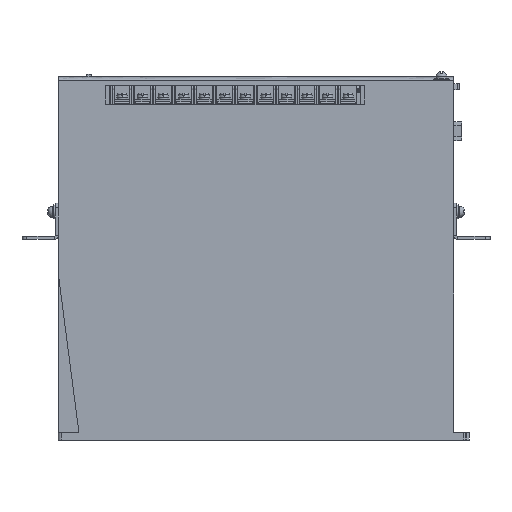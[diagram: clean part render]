
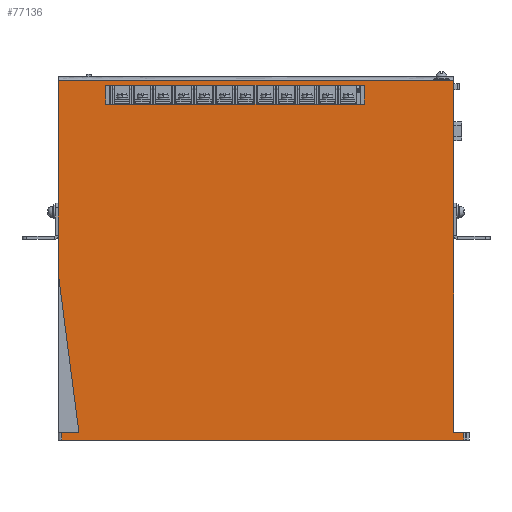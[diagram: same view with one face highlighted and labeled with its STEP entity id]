
A CAD part, left-side view. The second image highlights one B-rep face of the part: STEP entity #77136.
In plain terms, the highlighted planar face has unit normal (-1, 0, 0).
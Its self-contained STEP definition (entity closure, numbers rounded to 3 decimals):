
#69742=DIRECTION('',(0.,0.,-1.));
#69743=VECTOR('',#69742,222.5);
#69744=CARTESIAN_POINT('',(-51.,0.,222.5));
#69745=LINE('',#69744,#69743);
#69746=DIRECTION('',(0.,-1.,0.));
#69747=VECTOR('',#69746,6.5);
#69748=CARTESIAN_POINT('',(-51.,0.,0.));
#69749=LINE('',#69748,#69747);
#69750=DIRECTION('',(0.,1.,0.));
#69751=VECTOR('',#69750,254.5);
#69752=CARTESIAN_POINT('',(-51.,-6.5,-5.));
#69753=LINE('',#69752,#69751);
#69754=DIRECTION('',(0.,-1.,0.));
#69755=VECTOR('',#69754,11.);
#69756=CARTESIAN_POINT('',(-51.,248.,0.));
#69757=LINE('',#69756,#69755);
#69758=DIRECTION('',(0.,0.129,0.992));
#69759=VECTOR('',#69758,100.841);
#69760=CARTESIAN_POINT('',(-51.,237.,0.));
#69761=LINE('',#69760,#69759);
#69762=DIRECTION('',(0.,0.,1.));
#69763=VECTOR('',#69762,122.5);
#69764=CARTESIAN_POINT('',(-51.,250.,100.));
#69765=LINE('',#69764,#69763);
#69766=DIRECTION('',(0.,-1.,0.));
#69767=VECTOR('',#69766,250.);
#69768=CARTESIAN_POINT('',(-51.,250.,222.5));
#69769=LINE('',#69768,#69767);
#70514=DIRECTION('',(0.,0.,1.));
#70515=VECTOR('',#70514,5.);
#70516=CARTESIAN_POINT('',(-51.,-6.5,-5.));
#70517=LINE('',#70516,#70515);
#70594=DIRECTION('',(0.,0.,-1.));
#70595=VECTOR('',#70594,5.);
#70596=CARTESIAN_POINT('',(-51.,248.,0.));
#70597=LINE('',#70596,#70595);
#72050=DIRECTION('',(0.,1.,0.));
#72051=VECTOR('',#72050,163.4);
#72052=CARTESIAN_POINT('',(-51.,56.6,207.5));
#72053=LINE('',#72052,#72051);
#72054=DIRECTION('',(0.,0.,1.));
#72055=VECTOR('',#72054,12.);
#72056=CARTESIAN_POINT('',(-51.,220.,207.5));
#72057=LINE('',#72056,#72055);
#72062=DIRECTION('',(0.,-1.,0.));
#72063=VECTOR('',#72062,163.4);
#72064=CARTESIAN_POINT('',(-51.,220.,219.5));
#72065=LINE('',#72064,#72063);
#72070=DIRECTION('',(0.,0.,-1.));
#72071=VECTOR('',#72070,12.);
#72072=CARTESIAN_POINT('',(-51.,56.6,219.5));
#72073=LINE('',#72072,#72071);
#74072=CARTESIAN_POINT('',(-51.,0.,222.5));
#74073=VERTEX_POINT('',#74072);
#74074=CARTESIAN_POINT('',(-51.,250.,222.5));
#74075=VERTEX_POINT('',#74074);
#74494=CARTESIAN_POINT('',(-51.,250.,100.));
#74495=VERTEX_POINT('',#74494);
#74740=CARTESIAN_POINT('',(-51.,-6.5,0.));
#74741=VERTEX_POINT('',#74740);
#74742=CARTESIAN_POINT('',(-51.,0.,0.));
#74743=VERTEX_POINT('',#74742);
#74776=CARTESIAN_POINT('',(-51.,248.,0.));
#74777=CARTESIAN_POINT('',(-51.,237.,0.));
#74778=VERTEX_POINT('',#74776);
#74779=VERTEX_POINT('',#74777);
#74828=CARTESIAN_POINT('',(-51.,248.,-5.));
#74829=VERTEX_POINT('',#74828);
#74830=CARTESIAN_POINT('',(-51.,-6.5,-5.));
#74831=VERTEX_POINT('',#74830);
#75125=CARTESIAN_POINT('',(-51.,56.6,207.5));
#75126=CARTESIAN_POINT('',(-51.,220.,207.5));
#75127=VERTEX_POINT('',#75125);
#75128=VERTEX_POINT('',#75126);
#75129=CARTESIAN_POINT('',(-51.,56.6,219.5));
#75130=VERTEX_POINT('',#75129);
#75131=CARTESIAN_POINT('',(-51.,220.,219.5));
#75132=VERTEX_POINT('',#75131);
#77105=CARTESIAN_POINT('',(-51.,121.75,108.75));
#77106=DIRECTION('',(1.,0.,0.));
#77107=DIRECTION('',(0.,-1.,0.));
#77108=AXIS2_PLACEMENT_3D('',#77105,#77106,#77107);
#77109=PLANE('',#77108);
#77111=ORIENTED_EDGE('',*,*,#77110,.T.);
#77113=ORIENTED_EDGE('',*,*,#77112,.T.);
#77115=ORIENTED_EDGE('',*,*,#77114,.F.);
#77117=ORIENTED_EDGE('',*,*,#77116,.T.);
#77119=ORIENTED_EDGE('',*,*,#77118,.F.);
#77120=ORIENTED_EDGE('',*,*,#77078,.T.);
#77121=ORIENTED_EDGE('',*,*,#77100,.T.);
#77122=ORIENTED_EDGE('',*,*,#76828,.T.);
#77123=ORIENTED_EDGE('',*,*,#75674,.T.);
#77124=EDGE_LOOP('',(#77111,#77113,#77115,#77117,#77119,#77120,#77121,#77122,
#77123));
#77125=FACE_OUTER_BOUND('',#77124,.F.);
#77127=ORIENTED_EDGE('',*,*,#77126,.F.);
#77129=ORIENTED_EDGE('',*,*,#77128,.F.);
#77131=ORIENTED_EDGE('',*,*,#77130,.F.);
#77133=ORIENTED_EDGE('',*,*,#77132,.F.);
#77134=EDGE_LOOP('',(#77127,#77129,#77131,#77133));
#77135=FACE_BOUND('',#77134,.F.);
#75674=EDGE_CURVE('',#74075,#74073,#69769,.T.);
#76828=EDGE_CURVE('',#74495,#74075,#69765,.T.);
#77078=EDGE_CURVE('',#74778,#74779,#69757,.T.);
#77100=EDGE_CURVE('',#74779,#74495,#69761,.T.);
#77110=EDGE_CURVE('',#74073,#74743,#69745,.T.);
#77112=EDGE_CURVE('',#74743,#74741,#69749,.T.);
#77114=EDGE_CURVE('',#74831,#74741,#70517,.T.);
#77116=EDGE_CURVE('',#74831,#74829,#69753,.T.);
#77118=EDGE_CURVE('',#74778,#74829,#70597,.T.);
#77126=EDGE_CURVE('',#75127,#75128,#72053,.T.);
#77128=EDGE_CURVE('',#75130,#75127,#72073,.T.);
#77130=EDGE_CURVE('',#75132,#75130,#72065,.T.);
#77132=EDGE_CURVE('',#75128,#75132,#72057,.T.);
#77136=ADVANCED_FACE('',(#77125,#77135),#77109,.F.);
